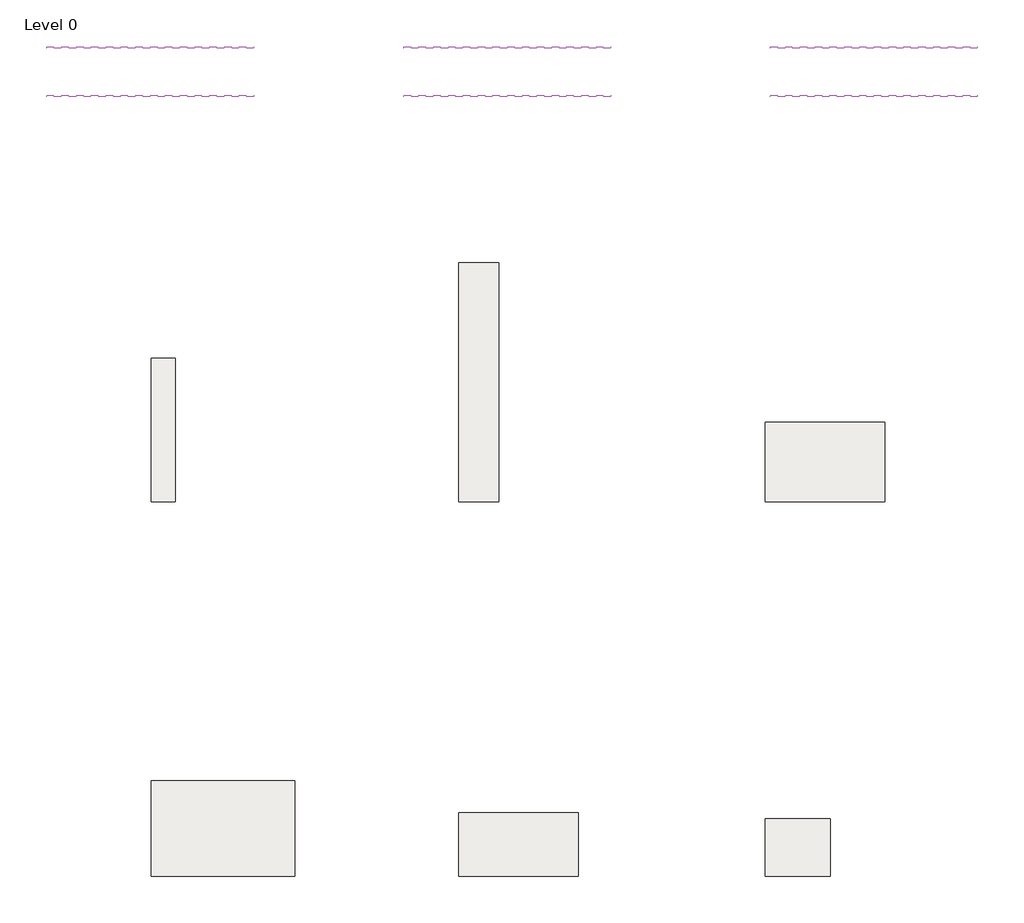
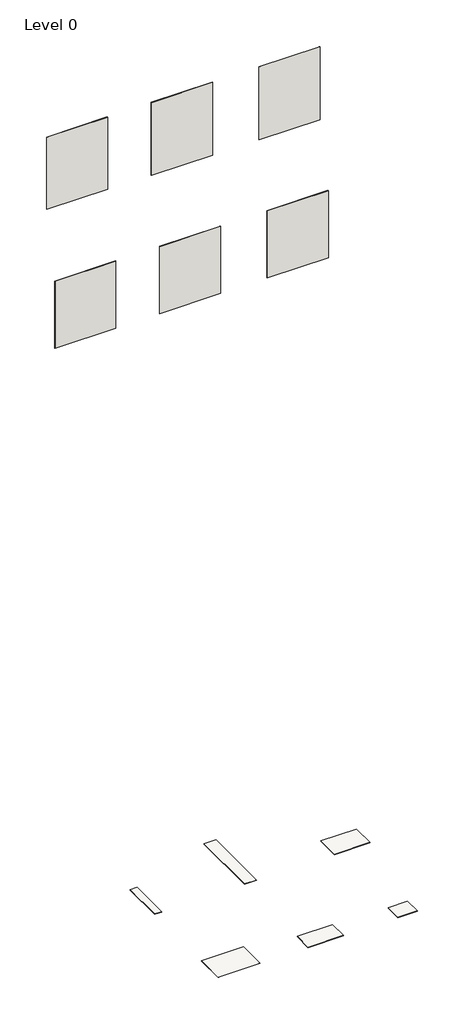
# One storey: 6 slabs, 6 walls.
"""IFC4 building model written with IfcOpenShell, lengths in millimetres."""

from ifc_helpers import new_model, si_unit, frame, origin, place, context, project, spatial, polyline, outline, extrude, element, save

model = new_model("IFC4")

# Units and contexts
model_context = context("Model", 3, world=origin())
ifc_project = project(units=[si_unit("LENGTHUNIT", "METRE", prefix="MILLI")], contexts=[model_context])

# Site, building, storey
site = spatial("IfcSite", under=ifc_project)
building = spatial("IfcBuilding", under=site)
storey = spatial("IfcBuildingStorey", under=building, Name="Level 0", Elevation=0.0)

# Slabs
placement = place(None, origin())
element("IfcSlab", 1, ObjectType="Floor_Tiles_Refin-Cortina-Honey-25x150 OF83", at=placement, inside=storey, context=model_context, shape_type="SweptSolid", body=[
    extrude(outline(polyline([(8754.1689426, 6789.4623743), (8754.1689426, 5289.4623743), (8504.1689426, 5289.4623743), (8504.1689426, 6789.4623743), (8754.1689426, 6789.4623743)])), frame((0.0, 0.0, -10.0), z_axis=(0.0, 0.0, 1.0), x_axis=(1.0, 0.0, 0.0)), (0.0, 0.0, 1.0), 10.0),
])
element("IfcSlab", 2, ObjectType="Floor_Tiles_Refin-Cortina-Honey-Esagono-25x21.6 OG75", at=placement, inside=storey, context=model_context, shape_type="SweptSolid", body=[
    extrude(outline(polyline([(9254.1689426, 3339.4623743), (9254.1689426, 2939.4623743), (8504.1689426, 2939.4623743), (8504.1689426, 3339.4623743), (9254.1689426, 3339.4623743)])), frame((0.0, 0.0, -10.0), z_axis=(0.0, 0.0, 1.0), x_axis=(1.0, 0.0, 0.0)), (0.0, 0.0, 1.0), 10.0),
])
element("IfcSlab", 3, ObjectType="Floor_Tiles_Refin-Cortina-Honey-Chalet-12.5x75 OG81", at=placement, inside=storey, context=model_context, shape_type="SweptSolid", body=[
    extrude(outline(polyline([(11177.1861419, 5789.4623743), (11177.1861419, 5289.4623743), (10427.1861419, 5289.4623743), (10427.1861419, 5789.4623743), (11177.1861419, 5789.4623743)])), frame((0.0, 0.0, -10.0), z_axis=(0.0, 0.0, 1.0), x_axis=(1.0, 0.0, 0.0)), (0.0, 0.0, 1.0), 10.0),
])
element("IfcSlab", 4, ObjectType="Floor_Tiles_Refin-Cortina-Honey-Herringbone-36.2x41.2 OG42", at=placement, inside=storey, context=model_context, shape_type="SweptSolid", body=[
    extrude(outline(polyline([(10835.4118688, 3299.4623743), (10835.4118688, 2939.4623743), (10425.4118688, 2939.4623743), (10425.4118688, 3299.4623743), (10835.4118688, 3299.4623743)])), frame((0.0, 0.0, -10.0), z_axis=(0.0, 0.0, 1.0), x_axis=(1.0, 0.0, 0.0)), (0.0, 0.0, 1.0), 10.0),
])
element("IfcSlab", 5, ObjectType="Floor_Tiles_Refin-Cortina-Honey-15x90 OI73", at=placement, inside=storey, context=model_context, shape_type="SweptSolid", body=[
    extrude(outline(polyline([(6724.3752062, 6188.4192064), (6724.3752062, 5288.4192064), (6574.3752062, 5288.4192064), (6574.3752062, 6188.4192064), (6724.3752062, 6188.4192064)])), frame((0.0, 0.0, -10.0), z_axis=(0.0, 0.0, 1.0), x_axis=(1.0, 0.0, 0.0)), (0.0, 0.0, 1.0), 10.0),
])
element("IfcSlab", 6, ObjectType="Floor_Tiles_Refin-Cortina-Honey-Chalet-15x90 OG85", at=placement, inside=storey, context=model_context, shape_type="SweptSolid", body=[
    extrude(outline(polyline([(7474.3752062, 3539.4623743), (7474.3752062, 2939.4623743), (6574.3752062, 2939.4623743), (6574.3752062, 3539.4623743), (7474.3752062, 3539.4623743)])), frame((0.0, 0.0, -10.0), z_axis=(0.0, 0.0, 1.0), x_axis=(1.0, 0.0, 0.0)), (0.0, 0.0, 1.0), 10.0),
])

# Walls
element("IfcWall", 7, ObjectType="Wall_Tiles_Refin-Cortina-Honey-25x150 OF83", at=placement, inside=storey, context=model_context, shape_type="SweptSolid", body=[
    extrude(outline(polyline([(9457.3752062, 8132.3838631), (8157.3752062, 8132.3838631), (8157.3752062, 8142.3838631), (9457.3752062, 8142.3838631), (9457.3752062, 8132.3838631)])), frame((0.0, 0.0, 14387.6770443), z_axis=(0.0, 0.0, 1.0), x_axis=(1.0, 0.0, 0.0)), (0.0, 0.0, 1.0), 1641.7417352),
])
element("IfcWall", 8, ObjectType="Wall_Tiles_Refin-Cortina-Honey-Chalet-12.5x75 OG81", at=placement, inside=storey, context=model_context, shape_type="SweptSolid", body=[
    extrude(outline(polyline([(11757.3752062, 8132.3838631), (10457.3752062, 8132.3838631), (10457.3752062, 8142.3838631), (11757.3752062, 8142.3838631), (11757.3752062, 8132.3838631)])), frame((0.0, 0.0, 14387.6770443), z_axis=(0.0, 0.0, 1.0), x_axis=(1.0, 0.0, 0.0)), (0.0, 0.0, 1.0), 1641.7417352),
])
element("IfcWall", 9, ObjectType="Wall_Tiles_Refin-Cortina-Honey-15x90 OI73", at=placement, inside=storey, context=model_context, shape_type="SweptSolid", body=[
    extrude(outline(polyline([(7217.3752062, 8132.3838631), (5917.3752062, 8132.3838631), (5917.3752062, 8142.3838631), (7217.3752062, 8142.3838631), (7217.3752062, 8132.3838631)])), frame((0.0, 0.0, 14403.7267346), z_axis=(0.0, 0.0, 1.0), x_axis=(1.0, 0.0, 0.0)), (0.0, 0.0, 1.0), 1625.692045),
])
element("IfcWall", 10, ObjectType="Wall_Tiles_Refin-Cortina-Honey-Chalet-15x90 OG85", at=placement, inside=storey, context=model_context, shape_type="SweptSolid", body=[
    extrude(outline(polyline([(7217.3752062, 7827.3838631), (5917.3752062, 7827.3838631), (5917.3752062, 7837.3838631), (7217.3752062, 7837.3838631), (7217.3752062, 7827.3838631)])), frame((0.0, 0.0, 11452.5436262), z_axis=(0.0, 0.0, 1.0), x_axis=(1.0, 0.0, 0.0)), (0.0, 0.0, 1.0), 1513.1985566),
])
element("IfcWall", 11, ObjectType="Wall_Tiles_Refin-Cortina-Honey-Esagono-25x21.6 OG75", at=placement, inside=storey, context=model_context, shape_type="SweptSolid", body=[
    extrude(outline(polyline([(9457.3752062, 7827.3838631), (8157.3752062, 7827.3838631), (8157.3752062, 7837.3838631), (9457.3752062, 7837.3838631), (9457.3752062, 7827.3838631)])), frame((0.0, 0.0, 11452.5436262), z_axis=(0.0, 0.0, 1.0), x_axis=(1.0, 0.0, 0.0)), (0.0, 0.0, 1.0), 1513.1985566),
])
element("IfcWall", 12, ObjectType="Wall_Tiles_Refin-Cortina-Honey-Herringbone-36.2x41.2 OG42", at=placement, inside=storey, context=model_context, shape_type="SweptSolid", body=[
    extrude(outline(polyline([(11757.3752062, 7827.3838631), (10457.3752062, 7827.3838631), (10457.3752062, 7837.3838631), (11757.3752062, 7837.3838631), (11757.3752062, 7827.3838631)])), frame((0.0, 0.0, 11452.5436262), z_axis=(0.0, 0.0, 1.0), x_axis=(1.0, 0.0, 0.0)), (0.0, 0.0, 1.0), 1513.1985566),
])

save(model, "model.ifc")
